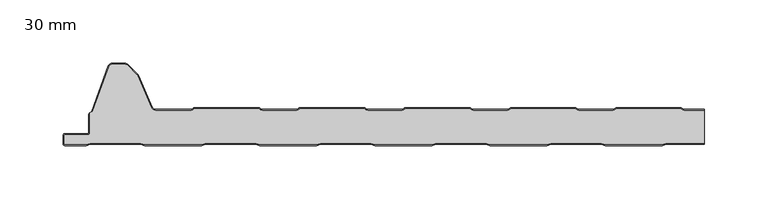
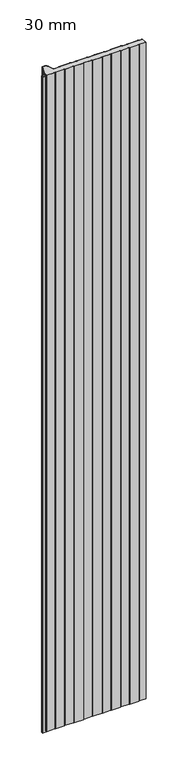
"""IFC4 building model written with IfcOpenShell, lengths in millimetres: plate geometry, HIANSA PANEL - H20.F01.004-PANELES DE CUBIERTA SIN TAPAJUNTA - EASY CUB 3GR - Panel de Muro Cortina : 30 mm."""

from ifc_helpers import new_model, si_unit, point, frame_2d, origin, origin_with_axes, place, context, project, spatial, polyline, circle_curve, trimmed, segment, composite_curve, outline, extrude, source, transform, mapped, element, save


def plate_30_mm_b6b4653c(model_context):
    return source(origin(), model_context, "Body", "SweptSolid", [
        extrude(outline(polyline([(-236.0046623, 15.4267187), (-236.479984, 16.25), (-236.479984, 24.6399643), (-236.0046623, 25.4632456), (-236.0046623, 15.4267187)])), origin_with_axes(), (0.0, 0.0, 1.0), 3390.8509027),
        extrude(outline(composite_curve([segment(trimmed(circle_curve(frame_2d((-236.9813919, 9.7640482)), 0.998858), [point((-235.982535, 9.7655207))], [point((-236.9813919, 8.7651902))], False, "CARTESIAN"), True, "CONTINUOUS"), segment(polyline([(-236.9813919, 8.7651902), (-255.4768579, 8.7651905)]), True, "CONTINUOUS"), segment(trimmed(circle_curve(frame_2d((-255.4798401, 8.2649415)), 0.5002578), [point((-255.4768579, 8.7651905))], [point((-255.9800979, 8.2649415))], True, "CARTESIAN"), True, "CONTINUOUS"), segment(polyline([(-255.9800979, 8.2649415), (-255.9800979, 1.0000206)]), True, "CONTINUOUS"), segment(trimmed(circle_curve(frame_2d((-255.4800361, 1.0000206)), 0.5000618), [point((-255.9800979, 1.0000206))], [point((-255.4800361, 0.4999588))], True, "CARTESIAN"), True, "CONTINUOUS"), segment(polyline([(-255.4800361, 0.4999588), (-238.321247, 0.4999588), (-235.3211235, 1.5), (-195.1588459, 1.5), (-192.1588459, 0.5), (-147.3211235, 0.5), (-144.3211235, 1.5), (-104.1588459, 1.5), (-101.1588459, 0.5), (-56.3211235, 0.5), (-53.3211235, 1.5), (-13.1588459, 1.5), (-10.1588459, 0.5), (34.6788765, 0.5), (37.6788765, 1.5), (77.8411541, 1.5), (80.8411541, 0.5), (125.6788765, 0.5), (128.6788765, 1.5), (168.8411541, 1.5), (171.8411541, 0.5), (216.6788765, 0.5), (219.6788765, 1.5), (249.9999998, 1.5), (249.9999998, 1.0), (219.7600153, 1.0), (216.7600153, 0.0), (171.7600153, 0.0), (168.7600153, 1.0), (128.7600153, 1.0), (125.7600153, 0.0), (80.7600153, 0.0), (77.7600153, 1.0), (37.7600153, 1.0), (34.7600153, 0.0), (-10.2399847, 0.0), (-13.2399847, 1.0), (-53.2399847, 1.0), (-56.2399847, 0.0), (-101.2399847, 0.0), (-104.2399847, 1.0), (-144.2399847, 1.0), (-147.2399847, 0.0), (-192.2399847, 0.0), (-195.2399847, 1.0), (-235.2399847, 1.0), (-238.2399847, 0.0), (-255.4799847, 0.0)]), True, "CONTINUOUS"), segment(trimmed(circle_curve(frame_2d((-255.4799847, 1.0)), 1.0), [point((-255.4799847, 0.0))], [point((-256.4799847, 1.0))], False, "CARTESIAN"), True, "CONTINUOUS"), segment(polyline([(-256.4799847, 1.0), (-256.4799847, 8.262651)]), True, "CONTINUOUS"), segment(trimmed(circle_curve(frame_2d((-255.4799847, 8.262651)), 1.0), [point((-256.4799847, 8.262651))], [point((-255.4799847, 9.262651))], False, "CARTESIAN"), True, "CONTINUOUS"), segment(polyline([(-255.4799847, 9.262651), (-236.9830391, 9.262651)]), True, "CONTINUOUS"), segment(trimmed(circle_curve(frame_2d((-236.979984, 9.7626416)), 0.5), [point((-236.9830391, 9.262651))], [point((-236.479984, 9.7626416))], True, "CARTESIAN"), True, "CONTINUOUS"), segment(polyline([(-236.479984, 9.7626416), (-236.479984, 16.25), (-235.982535, 15.388393), (-235.982535, 9.7655207)]), True, "CONTINUOUS")], self_intersect=False)), origin_with_axes(), (0.0, 0.0, 1.0), 3390.8509027),
        extrude(outline(composite_curve([segment(polyline([(-234.1370886, 26.794297), (-220.9862023, 62.9260604)]), True, "CONTINUOUS"), segment(trimmed(circle_curve(frame_2d((-218.1671244, 61.9)), 3.0), [point((-220.9862023, 62.9260604))], [point((-218.1671244, 64.9))], False, "CARTESIAN"), True, "CONTINUOUS"), segment(polyline([(-218.1671244, 64.9), (-208.1823564, 64.9)]), True, "CONTINUOUS"), segment(trimmed(circle_curve(frame_2d((-208.1823564, 59.9)), 5.0), [point((-208.1823564, 64.9))], [point((-204.6468225, 63.4355339))], False, "CARTESIAN"), True, "CONTINUOUS"), segment(polyline([(-204.6468225, 63.4355339), (-197.9600416, 56.7487529)]), True, "CONTINUOUS"), segment(trimmed(circle_curve(frame_2d((-201.4955755, 53.213219)), 5.0), [point((-197.9600416, 56.7487529))], [point((-196.9079185, 55.2015359))], False, "CARTESIAN"), True, "CONTINUOUS"), segment(polyline([(-196.9079185, 55.2015359), (-186.1184879, 30.3070099)]), True, "CONTINUOUS"), segment(trimmed(circle_curve(frame_2d((-183.3658937, 31.5)), 3.0), [point((-186.1184879, 30.3070099))], [point((-183.3658937, 28.5))], True, "CARTESIAN"), True, "CONTINUOUS"), segment(polyline([(-183.3658937, 28.5), (-155.5009808, 28.5)]), True, "CONTINUOUS"), segment(trimmed(circle_curve(frame_2d((-155.5009808, 30.5)), 2.0), [point((-155.5009808, 28.5))], [point((-154.270989, 28.9229394))], True, "CARTESIAN"), True, "CONTINUOUS"), segment(polyline([(-154.270989, 28.9229394), (-153.6196411, 29.5404749)]), True, "CONTINUOUS"), segment(trimmed(circle_curve(frame_2d((-152.3441266, 28.0)), 2.0), [point((-153.6196411, 29.5404749))], [point((-152.3441266, 30.0))], False, "CARTESIAN"), True, "CONTINUOUS"), segment(polyline([(-152.3441266, 30.0), (-102.3428932, 30.0)]), True, "CONTINUOUS"), segment(trimmed(circle_curve(frame_2d((-102.3428932, 28.0)), 2.0), [point((-102.3428932, 30.0))], [point((-101.0673787, 29.5404749))], False, "CARTESIAN"), True, "CONTINUOUS"), segment(polyline([(-101.0673787, 29.5404749), (-100.4160308, 28.9229394)]), True, "CONTINUOUS"), segment(trimmed(circle_curve(frame_2d((-99.1860389, 30.5)), 2.0), [point((-100.4160308, 28.9229394))], [point((-99.1860389, 28.5))], True, "CARTESIAN"), True, "CONTINUOUS"), segment(polyline([(-99.1860389, 28.5), (-72.1676475, 28.5)]), True, "CONTINUOUS"), segment(trimmed(circle_curve(frame_2d((-72.1676475, 30.5)), 2.0), [point((-72.1676475, 28.5))], [point((-70.9376556, 28.9229394))], True, "CARTESIAN"), True, "CONTINUOUS"), segment(polyline([(-70.9376556, 28.9229394), (-70.2863077, 29.5404749)]), True, "CONTINUOUS"), segment(trimmed(circle_curve(frame_2d((-69.0107932, 28.0)), 2.0), [point((-70.2863077, 29.5404749))], [point((-69.0107932, 30.0))], False, "CARTESIAN"), True, "CONTINUOUS"), segment(polyline([(-69.0107932, 30.0), (-19.0095599, 30.0)]), True, "CONTINUOUS"), segment(trimmed(circle_curve(frame_2d((-19.0095599, 28.0)), 2.0), [point((-19.0095599, 30.0))], [point((-17.7340454, 29.5404749))], False, "CARTESIAN"), True, "CONTINUOUS"), segment(polyline([(-17.7340454, 29.5404749), (-17.0826975, 28.9229394)]), True, "CONTINUOUS"), segment(trimmed(circle_curve(frame_2d((-15.8527056, 30.5)), 2.0), [point((-17.0826975, 28.9229394))], [point((-15.8527056, 28.5))], True, "CARTESIAN"), True, "CONTINUOUS"), segment(polyline([(-15.8527056, 28.5), (11.1656858, 28.5)]), True, "CONTINUOUS"), segment(trimmed(circle_curve(frame_2d((11.1656858, 30.5)), 2.0), [point((11.1656858, 28.5))], [point((12.3956777, 28.9229394))], True, "CARTESIAN"), True, "CONTINUOUS"), segment(polyline([(12.3956777, 28.9229394), (13.0470256, 29.5404749)]), True, "CONTINUOUS"), segment(trimmed(circle_curve(frame_2d((14.3225401, 28.0)), 2.0), [point((13.0470256, 29.5404749))], [point((14.3225401, 30.0))], False, "CARTESIAN"), True, "CONTINUOUS"), segment(polyline([(14.3225401, 30.0), (64.3237735, 30.0)]), True, "CONTINUOUS"), segment(trimmed(circle_curve(frame_2d((64.3237735, 28.0)), 2.0), [point((64.3237735, 30.0))], [point((65.5992879, 29.5404749))], False, "CARTESIAN"), True, "CONTINUOUS"), segment(polyline([(65.5992879, 29.5404749), (66.2506359, 28.9229394)]), True, "CONTINUOUS"), segment(trimmed(circle_curve(frame_2d((67.4806277, 30.5)), 2.0), [point((66.2506359, 28.9229394))], [point((67.4806277, 28.5))], True, "CARTESIAN"), True, "CONTINUOUS"), segment(polyline([(67.4806277, 28.5), (94.4990192, 28.5)]), True, "CONTINUOUS"), segment(trimmed(circle_curve(frame_2d((94.4990192, 30.5)), 2.0), [point((94.4990192, 28.5))], [point((95.729011, 28.9229394))], True, "CARTESIAN"), True, "CONTINUOUS"), segment(polyline([(95.729011, 28.9229394), (96.3803589, 29.5404749)]), True, "CONTINUOUS"), segment(trimmed(circle_curve(frame_2d((97.6558734, 28.0)), 2.0), [point((96.3803589, 29.5404749))], [point((97.6558734, 30.0))], False, "CARTESIAN"), True, "CONTINUOUS"), segment(polyline([(97.6558734, 30.0), (147.6571068, 30.0)]), True, "CONTINUOUS"), segment(trimmed(circle_curve(frame_2d((147.6571068, 28.0)), 2.0), [point((147.6571068, 30.0))], [point((148.9326213, 29.5404749))], False, "CARTESIAN"), True, "CONTINUOUS"), segment(polyline([(148.9326213, 29.5404749), (149.5839692, 28.9229394)]), True, "CONTINUOUS"), segment(trimmed(circle_curve(frame_2d((150.8139611, 30.5)), 2.0), [point((149.5839692, 28.9229394))], [point((150.8139611, 28.5))], True, "CARTESIAN"), True, "CONTINUOUS"), segment(polyline([(150.8139611, 28.5), (177.8323525, 28.5)]), True, "CONTINUOUS"), segment(trimmed(circle_curve(frame_2d((177.8323525, 30.5)), 2.0), [point((177.8323525, 28.5))], [point((179.0623444, 28.9229394))], True, "CARTESIAN"), True, "CONTINUOUS"), segment(polyline([(179.0623444, 28.9229394), (179.7136923, 29.5404749)]), True, "CONTINUOUS"), segment(trimmed(circle_curve(frame_2d((180.9892068, 28.0)), 2.0), [point((179.7136923, 29.5404749))], [point((180.9892068, 30.0))], False, "CARTESIAN"), True, "CONTINUOUS"), segment(polyline([(180.9892068, 30.0), (230.9904401, 30.0)]), True, "CONTINUOUS"), segment(trimmed(circle_curve(frame_2d((230.9904401, 28.0)), 2.0), [point((230.9904401, 30.0))], [point((232.2659546, 29.5404749))], False, "CARTESIAN"), True, "CONTINUOUS"), segment(polyline([(232.2659546, 29.5404749), (232.9173025, 28.9229394)]), True, "CONTINUOUS"), segment(trimmed(circle_curve(frame_2d((234.1472944, 30.5)), 2.0), [point((232.9173025, 28.9229394))], [point((234.1472944, 28.5))], True, "CARTESIAN"), True, "CONTINUOUS"), segment(polyline([(234.1472944, 28.5), (249.9999998, 28.5), (249.9999998, 28.0), (234.1472944, 28.0)]), True, "CONTINUOUS"), segment(trimmed(circle_curve(frame_2d((234.1472944, 30.5)), 2.5), [point((234.1472944, 28.0))], [point((232.5898138, 28.54443))], False, "CARTESIAN"), True, "CONTINUOUS"), segment(polyline([(232.5898138, 28.54443), (231.9350126, 29.1652394)]), True, "CONTINUOUS"), segment(trimmed(circle_curve(frame_2d((230.9904401, 28.0)), 1.5), [point((231.9350126, 29.1652394))], [point((230.9904401, 29.5))], True, "CARTESIAN"), True, "CONTINUOUS"), segment(polyline([(230.9904401, 29.5), (180.9892068, 29.5)]), True, "CONTINUOUS"), segment(trimmed(circle_curve(frame_2d((180.9892068, 28.0)), 1.5), [point((180.9892068, 29.5))], [point((180.0446343, 29.1652394))], True, "CARTESIAN"), True, "CONTINUOUS"), segment(polyline([(180.0446343, 29.1652394), (179.3898331, 28.54443)]), True, "CONTINUOUS"), segment(trimmed(circle_curve(frame_2d((177.8323525, 30.5)), 2.5), [point((179.3898331, 28.54443))], [point((177.8323525, 28.0))], False, "CARTESIAN"), True, "CONTINUOUS"), segment(polyline([(177.8323525, 28.0), (150.8139611, 28.0)]), True, "CONTINUOUS"), segment(trimmed(circle_curve(frame_2d((150.8139611, 30.5)), 2.5), [point((150.8139611, 28.0))], [point((149.2564804, 28.54443))], False, "CARTESIAN"), True, "CONTINUOUS"), segment(polyline([(149.2564804, 28.54443), (148.6016792, 29.1652394)]), True, "CONTINUOUS"), segment(trimmed(circle_curve(frame_2d((147.6571068, 28.0)), 1.5), [point((148.6016792, 29.1652394))], [point((147.6571068, 29.5))], True, "CARTESIAN"), True, "CONTINUOUS"), segment(polyline([(147.6571068, 29.5), (97.6558734, 29.5)]), True, "CONTINUOUS"), segment(trimmed(circle_curve(frame_2d((97.6558734, 28.0)), 1.5), [point((97.6558734, 29.5))], [point((96.711301, 29.1652394))], True, "CARTESIAN"), True, "CONTINUOUS"), segment(polyline([(96.711301, 29.1652394), (96.0564998, 28.54443)]), True, "CONTINUOUS"), segment(trimmed(circle_curve(frame_2d((94.4990192, 30.5)), 2.5), [point((96.0564998, 28.54443))], [point((94.4990192, 28.0))], False, "CARTESIAN"), True, "CONTINUOUS"), segment(polyline([(94.4990192, 28.0), (67.4806277, 28.0)]), True, "CONTINUOUS"), segment(trimmed(circle_curve(frame_2d((67.4806277, 30.5)), 2.5), [point((67.4806277, 28.0))], [point((65.9231471, 28.54443))], False, "CARTESIAN"), True, "CONTINUOUS"), segment(polyline([(65.9231471, 28.54443), (65.2683459, 29.1652394)]), True, "CONTINUOUS"), segment(trimmed(circle_curve(frame_2d((64.3237735, 28.0)), 1.5), [point((65.2683459, 29.1652394))], [point((64.3237735, 29.5))], True, "CARTESIAN"), True, "CONTINUOUS"), segment(polyline([(64.3237735, 29.5), (14.3225401, 29.5)]), True, "CONTINUOUS"), segment(trimmed(circle_curve(frame_2d((14.3225401, 28.0)), 1.5), [point((14.3225401, 29.5))], [point((13.3779676, 29.1652394))], True, "CARTESIAN"), True, "CONTINUOUS"), segment(polyline([(13.3779676, 29.1652394), (12.7231664, 28.54443)]), True, "CONTINUOUS"), segment(trimmed(circle_curve(frame_2d((11.1656858, 30.5)), 2.5), [point((12.7231664, 28.54443))], [point((11.1656858, 28.0))], False, "CARTESIAN"), True, "CONTINUOUS"), segment(polyline([(11.1656858, 28.0), (-15.8527056, 28.0)]), True, "CONTINUOUS"), segment(trimmed(circle_curve(frame_2d((-15.8527056, 30.5)), 2.5), [point((-15.8527056, 28.0))], [point((-17.4101862, 28.54443))], False, "CARTESIAN"), True, "CONTINUOUS"), segment(polyline([(-17.4101862, 28.54443), (-18.0649874, 29.1652394)]), True, "CONTINUOUS"), segment(trimmed(circle_curve(frame_2d((-19.0095599, 28.0)), 1.5), [point((-18.0649874, 29.1652394))], [point((-19.0095599, 29.5))], True, "CARTESIAN"), True, "CONTINUOUS"), segment(polyline([(-19.0095599, 29.5), (-69.0107932, 29.5)]), True, "CONTINUOUS"), segment(trimmed(circle_curve(frame_2d((-69.0107932, 28.0)), 1.5), [point((-69.0107932, 29.5))], [point((-69.9553657, 29.1652394))], True, "CARTESIAN"), True, "CONTINUOUS"), segment(polyline([(-69.9553657, 29.1652394), (-70.6101669, 28.54443)]), True, "CONTINUOUS"), segment(trimmed(circle_curve(frame_2d((-72.1676475, 30.5)), 2.5), [point((-70.6101669, 28.54443))], [point((-72.1676475, 28.0))], False, "CARTESIAN"), True, "CONTINUOUS"), segment(polyline([(-72.1676475, 28.0), (-99.1860389, 28.0)]), True, "CONTINUOUS"), segment(trimmed(circle_curve(frame_2d((-99.1860389, 30.5)), 2.5), [point((-99.1860389, 28.0))], [point((-100.7435196, 28.54443))], False, "CARTESIAN"), True, "CONTINUOUS"), segment(polyline([(-100.7435196, 28.54443), (-101.3983208, 29.1652394)]), True, "CONTINUOUS"), segment(trimmed(circle_curve(frame_2d((-102.3428932, 28.0)), 1.5), [point((-101.3983208, 29.1652394))], [point((-102.3428932, 29.5))], True, "CARTESIAN"), True, "CONTINUOUS"), segment(polyline([(-102.3428932, 29.5), (-152.3441266, 29.5)]), True, "CONTINUOUS"), segment(trimmed(circle_curve(frame_2d((-152.3441266, 28.0)), 1.5), [point((-152.3441266, 29.5))], [point((-153.288699, 29.1652394))], True, "CARTESIAN"), True, "CONTINUOUS"), segment(polyline([(-153.288699, 29.1652394), (-153.9435002, 28.54443)]), True, "CONTINUOUS"), segment(trimmed(circle_curve(frame_2d((-155.5009808, 30.5)), 2.5), [point((-153.9435002, 28.54443))], [point((-155.5009808, 28.0))], False, "CARTESIAN"), True, "CONTINUOUS"), segment(polyline([(-155.5009808, 28.0), (-183.3658937, 28.0)]), True, "CONTINUOUS"), segment(trimmed(circle_curve(frame_2d((-183.3658937, 31.5)), 3.5), [point((-183.3658937, 28.0))], [point((-186.5772536, 30.1081782))], False, "CARTESIAN"), True, "CONTINUOUS"), segment(polyline([(-186.5772536, 30.1081782), (-197.3666842, 55.0027042)]), True, "CONTINUOUS"), segment(trimmed(circle_curve(frame_2d((-201.4955755, 53.213219)), 4.5), [point((-197.3666842, 55.0027042))], [point((-198.3135949, 56.3951995))], True, "CARTESIAN"), True, "CONTINUOUS"), segment(polyline([(-198.3135949, 56.3951995), (-205.0003759, 63.0819805)]), True, "CONTINUOUS"), segment(trimmed(circle_curve(frame_2d((-208.1823564, 59.9)), 4.5), [point((-205.0003759, 63.0819805))], [point((-208.1823564, 64.4))], True, "CARTESIAN"), True, "CONTINUOUS"), segment(polyline([(-208.1823564, 64.4), (-218.1671244, 64.4)]), True, "CONTINUOUS"), segment(trimmed(circle_curve(frame_2d((-218.1671244, 61.9)), 2.5), [point((-218.1671244, 64.4))], [point((-220.516356, 62.7550504))], True, "CARTESIAN"), True, "CONTINUOUS"), segment(polyline([(-220.516356, 62.7550504), (-233.4445023, 27.2352601), (-234.1370886, 26.794297)]), True, "CONTINUOUS")], self_intersect=False)), origin_with_axes(), (0.0, 0.0, 1.0), 3390.8509027),
        extrude(outline(composite_curve([segment(polyline([(-236.0046623, 25.4632456), (-234.1370886, 26.894297), (-233.3059851, 27.4234527), (-220.4223867, 62.8208483)]), True, "CONTINUOUS"), segment(trimmed(circle_curve(frame_2d((-218.1671244, 62.0)), 2.4), [point((-220.4223867, 62.8208483))], [point((-218.1671244, 64.4))], False, "CARTESIAN"), True, "CONTINUOUS"), segment(polyline([(-218.1671244, 64.4), (-208.1823564, 64.4)]), True, "CONTINUOUS"), segment(trimmed(circle_curve(frame_2d((-208.1823564, 60.0)), 4.4), [point((-208.1823564, 64.4))], [point((-205.0710866, 63.1112698))], False, "CARTESIAN"), True, "CONTINUOUS"), segment(polyline([(-205.0710866, 63.1112698), (-198.3843056, 56.4244889)]), True, "CONTINUOUS"), segment(trimmed(circle_curve(frame_2d((-201.4955755, 53.313219)), 4.4), [point((-198.3843056, 56.4244889))], [point((-197.4584374, 55.0629379))], False, "CARTESIAN"), True, "CONTINUOUS"), segment(polyline([(-197.4584374, 55.0629379), (-186.6690067, 30.1684119)]), True, "CONTINUOUS"), segment(trimmed(circle_curve(frame_2d((-183.3658937, 31.6)), 3.6), [point((-186.6690067, 30.1684119))], [point((-183.3658937, 28.0))], True, "CARTESIAN"), True, "CONTINUOUS"), segment(polyline([(-183.3658937, 28.0), (-155.5009808, 28.0)]), True, "CONTINUOUS"), segment(trimmed(circle_curve(frame_2d((-155.5009808, 30.6)), 2.6), [point((-155.5009808, 28.0))], [point((-153.9019914, 28.5498213))], True, "CARTESIAN"), True, "CONTINUOUS"), segment(polyline([(-153.9019914, 28.5498213), (-153.2369867, 29.1783324)]), True, "CONTINUOUS"), segment(trimmed(circle_curve(frame_2d((-152.3441266, 28.1)), 1.4), [point((-153.2369867, 29.1783324))], [point((-152.3441266, 29.5))], False, "CARTESIAN"), True, "CONTINUOUS"), segment(polyline([(-152.3441266, 29.5), (-102.3428932, 29.5)]), True, "CONTINUOUS"), segment(trimmed(circle_curve(frame_2d((-102.3428932, 28.1)), 1.4), [point((-102.3428932, 29.5))], [point((-101.4500331, 29.1783324))], False, "CARTESIAN"), True, "CONTINUOUS"), segment(polyline([(-101.4500331, 29.1783324), (-100.7850284, 28.5498213)]), True, "CONTINUOUS"), segment(trimmed(circle_curve(frame_2d((-99.1860389, 30.6)), 2.6), [point((-100.7850284, 28.5498213))], [point((-99.1860389, 28.0))], True, "CARTESIAN"), True, "CONTINUOUS"), segment(polyline([(-99.1860389, 28.0), (-72.1676475, 28.0)]), True, "CONTINUOUS"), segment(trimmed(circle_curve(frame_2d((-72.1676475, 30.6)), 2.6), [point((-72.1676475, 28.0))], [point((-70.5686581, 28.5498213))], True, "CARTESIAN"), True, "CONTINUOUS"), segment(polyline([(-70.5686581, 28.5498213), (-69.9036534, 29.1783324)]), True, "CONTINUOUS"), segment(trimmed(circle_curve(frame_2d((-69.0107932, 28.1)), 1.4), [point((-69.9036534, 29.1783324))], [point((-69.0107932, 29.5))], False, "CARTESIAN"), True, "CONTINUOUS"), segment(polyline([(-69.0107932, 29.5), (-19.0095599, 29.5)]), True, "CONTINUOUS"), segment(trimmed(circle_curve(frame_2d((-19.0095599, 28.1)), 1.4), [point((-19.0095599, 29.5))], [point((-18.1166997, 29.1783324))], False, "CARTESIAN"), True, "CONTINUOUS"), segment(polyline([(-18.1166997, 29.1783324), (-17.451695, 28.5498213)]), True, "CONTINUOUS"), segment(trimmed(circle_curve(frame_2d((-15.8527056, 30.6)), 2.6), [point((-17.451695, 28.5498213))], [point((-15.8527056, 28.0))], True, "CARTESIAN"), True, "CONTINUOUS"), segment(polyline([(-15.8527056, 28.0), (11.1656858, 28.0)]), True, "CONTINUOUS"), segment(trimmed(circle_curve(frame_2d((11.1656858, 30.6)), 2.6), [point((11.1656858, 28.0))], [point((12.7646752, 28.5498213))], True, "CARTESIAN"), True, "CONTINUOUS"), segment(polyline([(12.7646752, 28.5498213), (13.4296799, 29.1783324)]), True, "CONTINUOUS"), segment(trimmed(circle_curve(frame_2d((14.3225401, 28.1)), 1.4), [point((13.4296799, 29.1783324))], [point((14.3225401, 29.5))], False, "CARTESIAN"), True, "CONTINUOUS"), segment(polyline([(14.3225401, 29.5), (64.3237735, 29.5)]), True, "CONTINUOUS"), segment(trimmed(circle_curve(frame_2d((64.3237735, 28.1)), 1.4), [point((64.3237735, 29.5))], [point((65.2166336, 29.1783324))], False, "CARTESIAN"), True, "CONTINUOUS"), segment(polyline([(65.2166336, 29.1783324), (65.8816383, 28.5498213)]), True, "CONTINUOUS"), segment(trimmed(circle_curve(frame_2d((67.4806277, 30.6)), 2.6), [point((65.8816383, 28.5498213))], [point((67.4806277, 28.0))], True, "CARTESIAN"), True, "CONTINUOUS"), segment(polyline([(67.4806277, 28.0), (94.4990192, 28.0)]), True, "CONTINUOUS"), segment(trimmed(circle_curve(frame_2d((94.4990192, 30.6)), 2.6), [point((94.4990192, 28.0))], [point((96.0980086, 28.5498213))], True, "CARTESIAN"), True, "CONTINUOUS"), segment(polyline([(96.0980086, 28.5498213), (96.7630133, 29.1783324)]), True, "CONTINUOUS"), segment(trimmed(circle_curve(frame_2d((97.6558734, 28.1)), 1.4), [point((96.7630133, 29.1783324))], [point((97.6558734, 29.5))], False, "CARTESIAN"), True, "CONTINUOUS"), segment(polyline([(97.6558734, 29.5), (147.6571068, 29.5)]), True, "CONTINUOUS"), segment(trimmed(circle_curve(frame_2d((147.6571068, 28.1)), 1.4), [point((147.6571068, 29.5))], [point((148.5499669, 29.1783324))], False, "CARTESIAN"), True, "CONTINUOUS"), segment(polyline([(148.5499669, 29.1783324), (149.2149716, 28.5498213)]), True, "CONTINUOUS"), segment(trimmed(circle_curve(frame_2d((150.8139611, 30.6)), 2.6), [point((149.2149716, 28.5498213))], [point((150.8139611, 28.0))], True, "CARTESIAN"), True, "CONTINUOUS"), segment(polyline([(150.8139611, 28.0), (177.8323525, 28.0)]), True, "CONTINUOUS"), segment(trimmed(circle_curve(frame_2d((177.8323525, 30.6)), 2.6), [point((177.8323525, 28.0))], [point((179.4313419, 28.5498213))], True, "CARTESIAN"), True, "CONTINUOUS"), segment(polyline([(179.4313419, 28.5498213), (180.0963466, 29.1783324)]), True, "CONTINUOUS"), segment(trimmed(circle_curve(frame_2d((180.9892068, 28.1)), 1.4), [point((180.0963466, 29.1783324))], [point((180.9892068, 29.5))], False, "CARTESIAN"), True, "CONTINUOUS"), segment(polyline([(180.9892068, 29.5), (230.9904401, 29.5)]), True, "CONTINUOUS"), segment(trimmed(circle_curve(frame_2d((230.9904401, 28.1)), 1.4), [point((230.9904401, 29.5))], [point((231.8833003, 29.1783324))], False, "CARTESIAN"), True, "CONTINUOUS"), segment(polyline([(231.8833003, 29.1783324), (232.548305, 28.5498213)]), True, "CONTINUOUS"), segment(trimmed(circle_curve(frame_2d((234.1472944, 30.6)), 2.6), [point((232.548305, 28.5498213))], [point((234.1472944, 28.0))], True, "CARTESIAN"), True, "CONTINUOUS"), segment(polyline([(234.1472944, 28.0), (249.9999998, 28.0), (249.9999998, 1.4999588), (219.6588613, 1.4999588), (216.6588613, 0.4999588), (171.821139, 0.4999588), (168.821139, 1.4999588), (128.6588613, 1.4999588), (125.6588613, 0.4999588), (80.821139, 0.4999588), (77.821139, 1.4999588), (37.6588613, 1.4999588), (34.6588613, 0.4999588), (-10.178861, 0.4999588), (-13.178861, 1.4999588), (-53.3411387, 1.4999588), (-56.3411387, 0.4999588), (-101.178861, 0.4999588), (-104.178861, 1.4999588), (-144.3411387, 1.4999588), (-147.3411387, 0.4999588), (-192.178861, 0.4999588), (-195.1789845, 1.5), (-235.3411387, 1.5), (-238.3412622, 0.4999588), (-255.5000513, 0.4999588)]), True, "CONTINUOUS"), segment(trimmed(circle_curve(frame_2d((-255.5000513, 1.0000206)), 0.5000618), [point((-255.5000513, 0.4999588))], [point((-256.0001131, 1.0000206))], False, "CARTESIAN"), True, "CONTINUOUS"), segment(polyline([(-256.0001131, 1.0000206), (-256.0001131, 8.2649415)]), True, "CONTINUOUS"), segment(trimmed(circle_curve(frame_2d((-255.4998553, 8.2649415)), 0.5002578), [point((-256.0001131, 8.2649415))], [point((-255.4968731, 8.7651905))], False, "CARTESIAN"), True, "CONTINUOUS"), segment(polyline([(-255.4968731, 8.7651905), (-237.0014071, 8.7651905)]), True, "CONTINUOUS"), segment(trimmed(circle_curve(frame_2d((-237.0014071, 9.7640482)), 0.9988578), [point((-237.0014071, 8.7651905))], [point((-236.0046623, 9.8289851))], True, "CARTESIAN"), True, "CONTINUOUS"), segment(polyline([(-236.0046623, 9.8289851), (-236.0046623, 25.4632456)]), True, "CONTINUOUS")], self_intersect=False)), origin_with_axes(), (0.0, 0.0, 1.0), 3390.8509027),
    ])


if __name__ == "__main__":
    model = new_model("IFC4")
    model_context = context("Model", 3, world=origin())
    ifc_project = project(units=[si_unit("LENGTHUNIT", "METRE", prefix="MILLI")], contexts=[model_context])
    site = spatial("IfcSite", under=ifc_project)
    building = spatial("IfcBuilding", under=site)
    placement = place(None, origin())
    plate_30_mm_shape = plate_30_mm_b6b4653c(model_context)
    element("IfcPlate", 1, ObjectType="HIANSA PANEL - H20.F01.004-PANELES DE CUBIERTA SIN TAPAJUNTA - EASY CUB 3GR - Panel de Muro Cortina : 30 mm", at=placement, inside=building, context=model_context, shape_type="MappedRepresentation", body=[
        mapped(plate_30_mm_shape, transform((0.0, 0.0, 0.0), x_axis=(1.0, 0.0, 0.0), y_axis=(0.0, 1.0, 0.0), z_axis=(0.0, 0.0, 1.0))),
    ])
    save(model, "model.ifc")
